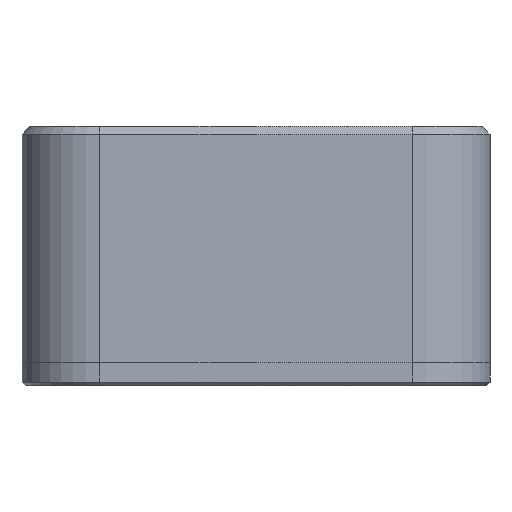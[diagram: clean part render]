
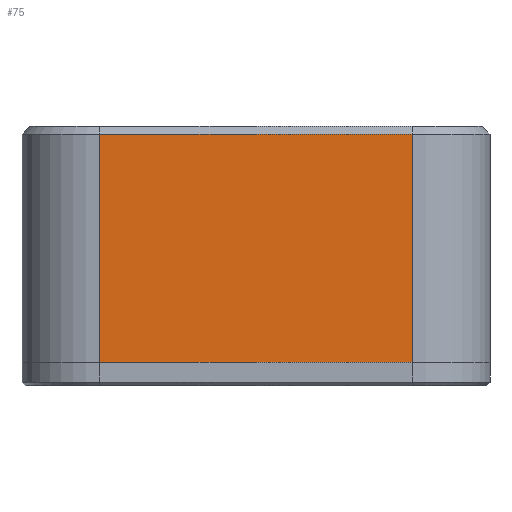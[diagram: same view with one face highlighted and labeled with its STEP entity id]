
A CAD part, left-side view. The second image highlights one B-rep face of the part: STEP entity #75.
In plain terms, the highlighted planar face has unit normal (-1, 0, 0).
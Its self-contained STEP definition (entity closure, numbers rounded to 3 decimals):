
#75 = ADVANCED_FACE('',(#76),#90,.F.);
#76 = FACE_BOUND('',#77,.F.);
#77 = EDGE_LOOP('',(#78,#113,#141,#169));
#78 = ORIENTED_EDGE('',*,*,#79,.F.);
#79 = EDGE_CURVE('',#80,#82,#84,.T.);
#80 = VERTEX_POINT('',#81);
#81 = CARTESIAN_POINT('',(-27.,-16.,2.4));
#82 = VERTEX_POINT('',#83);
#83 = CARTESIAN_POINT('',(-27.,-16.,25.8));
#84 = SURFACE_CURVE('',#85,(#89,#101),.PCURVE_S1.);
#85 = LINE('',#86,#87);
#86 = CARTESIAN_POINT('',(-27.,-16.,2.4));
#87 = VECTOR('',#88,1.);
#88 = DIRECTION('',(0.,0.,1.));
#89 = PCURVE('',#90,#95);
#90 = PLANE('',#91);
#91 = AXIS2_PLACEMENT_3D('',#92,#93,#94);
#92 = CARTESIAN_POINT('',(-27.,-24.,2.4));
#93 = DIRECTION('',(1.,0.,0.));
#94 = DIRECTION('',(0.,0.,1.));
#95 = DEFINITIONAL_REPRESENTATION('',(#96),#100);
#96 = LINE('',#97,#98);
#97 = CARTESIAN_POINT('',(0.,-8.));
#98 = VECTOR('',#99,1.);
#99 = DIRECTION('',(1.,0.));
#100 = ( GEOMETRIC_REPRESENTATION_CONTEXT(2) 
PARAMETRIC_REPRESENTATION_CONTEXT() REPRESENTATION_CONTEXT('2D SPACE',''
  ) );
#101 = PCURVE('',#102,#107);
#102 = CYLINDRICAL_SURFACE('',#103,8.);
#103 = AXIS2_PLACEMENT_3D('',#104,#105,#106);
#104 = CARTESIAN_POINT('',(-19.,-16.,2.4));
#105 = DIRECTION('',(0.,0.,1.));
#106 = DIRECTION('',(-1.,-0.,0.));
#107 = DEFINITIONAL_REPRESENTATION('',(#108),#112);
#108 = LINE('',#109,#110);
#109 = CARTESIAN_POINT('',(0.,0.));
#110 = VECTOR('',#111,1.);
#111 = DIRECTION('',(0.,1.));
#112 = ( GEOMETRIC_REPRESENTATION_CONTEXT(2) 
PARAMETRIC_REPRESENTATION_CONTEXT() REPRESENTATION_CONTEXT('2D SPACE',''
  ) );
#113 = ORIENTED_EDGE('',*,*,#114,.T.);
#114 = EDGE_CURVE('',#80,#115,#117,.T.);
#115 = VERTEX_POINT('',#116);
#116 = CARTESIAN_POINT('',(-27.,16.,2.4));
#117 = SURFACE_CURVE('',#118,(#122,#129),.PCURVE_S1.);
#118 = LINE('',#119,#120);
#119 = CARTESIAN_POINT('',(-27.,-24.,2.4));
#120 = VECTOR('',#121,1.);
#121 = DIRECTION('',(0.,1.,0.));
#122 = PCURVE('',#90,#123);
#123 = DEFINITIONAL_REPRESENTATION('',(#124),#128);
#124 = LINE('',#125,#126);
#125 = CARTESIAN_POINT('',(0.,0.));
#126 = VECTOR('',#127,1.);
#127 = DIRECTION('',(0.,-1.));
#128 = ( GEOMETRIC_REPRESENTATION_CONTEXT(2) 
PARAMETRIC_REPRESENTATION_CONTEXT() REPRESENTATION_CONTEXT('2D SPACE',''
  ) );
#129 = PCURVE('',#130,#135);
#130 = PLANE('',#131);
#131 = AXIS2_PLACEMENT_3D('',#132,#133,#134);
#132 = CARTESIAN_POINT('',(-27.,-24.,2.4));
#133 = DIRECTION('',(0.,0.,1.));
#134 = DIRECTION('',(1.,0.,0.));
#135 = DEFINITIONAL_REPRESENTATION('',(#136),#140);
#136 = LINE('',#137,#138);
#137 = CARTESIAN_POINT('',(0.,0.));
#138 = VECTOR('',#139,1.);
#139 = DIRECTION('',(0.,1.));
#140 = ( GEOMETRIC_REPRESENTATION_CONTEXT(2) 
PARAMETRIC_REPRESENTATION_CONTEXT() REPRESENTATION_CONTEXT('2D SPACE',''
  ) );
#141 = ORIENTED_EDGE('',*,*,#142,.T.);
#142 = EDGE_CURVE('',#115,#143,#145,.T.);
#143 = VERTEX_POINT('',#144);
#144 = CARTESIAN_POINT('',(-27.,16.,25.8));
#145 = SURFACE_CURVE('',#146,(#150,#157),.PCURVE_S1.);
#146 = LINE('',#147,#148);
#147 = CARTESIAN_POINT('',(-27.,16.,2.4));
#148 = VECTOR('',#149,1.);
#149 = DIRECTION('',(0.,0.,1.));
#150 = PCURVE('',#90,#151);
#151 = DEFINITIONAL_REPRESENTATION('',(#152),#156);
#152 = LINE('',#153,#154);
#153 = CARTESIAN_POINT('',(0.,-40.));
#154 = VECTOR('',#155,1.);
#155 = DIRECTION('',(1.,0.));
#156 = ( GEOMETRIC_REPRESENTATION_CONTEXT(2) 
PARAMETRIC_REPRESENTATION_CONTEXT() REPRESENTATION_CONTEXT('2D SPACE',''
  ) );
#157 = PCURVE('',#158,#163);
#158 = CYLINDRICAL_SURFACE('',#159,8.);
#159 = AXIS2_PLACEMENT_3D('',#160,#161,#162);
#160 = CARTESIAN_POINT('',(-19.,16.,2.4));
#161 = DIRECTION('',(0.,0.,1.));
#162 = DIRECTION('',(-1.,-0.,0.));
#163 = DEFINITIONAL_REPRESENTATION('',(#164),#168);
#164 = LINE('',#165,#166);
#165 = CARTESIAN_POINT('',(-0.,0.));
#166 = VECTOR('',#167,1.);
#167 = DIRECTION('',(-0.,1.));
#168 = ( GEOMETRIC_REPRESENTATION_CONTEXT(2) 
PARAMETRIC_REPRESENTATION_CONTEXT() REPRESENTATION_CONTEXT('2D SPACE',''
  ) );
#169 = ORIENTED_EDGE('',*,*,#170,.F.);
#170 = EDGE_CURVE('',#82,#143,#171,.T.);
#171 = SURFACE_CURVE('',#172,(#176,#183),.PCURVE_S1.);
#172 = LINE('',#173,#174);
#173 = CARTESIAN_POINT('',(-27.,-16.,25.8));
#174 = VECTOR('',#175,1.);
#175 = DIRECTION('',(0.,1.,0.));
#176 = PCURVE('',#90,#177);
#177 = DEFINITIONAL_REPRESENTATION('',(#178),#182);
#178 = LINE('',#179,#180);
#179 = CARTESIAN_POINT('',(23.4,-8.));
#180 = VECTOR('',#181,1.);
#181 = DIRECTION('',(0.,-1.));
#182 = ( GEOMETRIC_REPRESENTATION_CONTEXT(2) 
PARAMETRIC_REPRESENTATION_CONTEXT() REPRESENTATION_CONTEXT('2D SPACE',''
  ) );
#183 = PCURVE('',#184,#189);
#184 = PLANE('',#185);
#185 = AXIS2_PLACEMENT_3D('',#186,#187,#188);
#186 = CARTESIAN_POINT('',(-26.6,-16.,26.2));
#187 = DIRECTION('',(0.707,0.,-0.707)
  );
#188 = DIRECTION('',(0.,-1.,0.));
#189 = DEFINITIONAL_REPRESENTATION('',(#190),#194);
#190 = LINE('',#191,#192);
#191 = CARTESIAN_POINT('',(-0.,0.566));
#192 = VECTOR('',#193,1.);
#193 = DIRECTION('',(-1.,0.));
#194 = ( GEOMETRIC_REPRESENTATION_CONTEXT(2) 
PARAMETRIC_REPRESENTATION_CONTEXT() REPRESENTATION_CONTEXT('2D SPACE',''
  ) );
